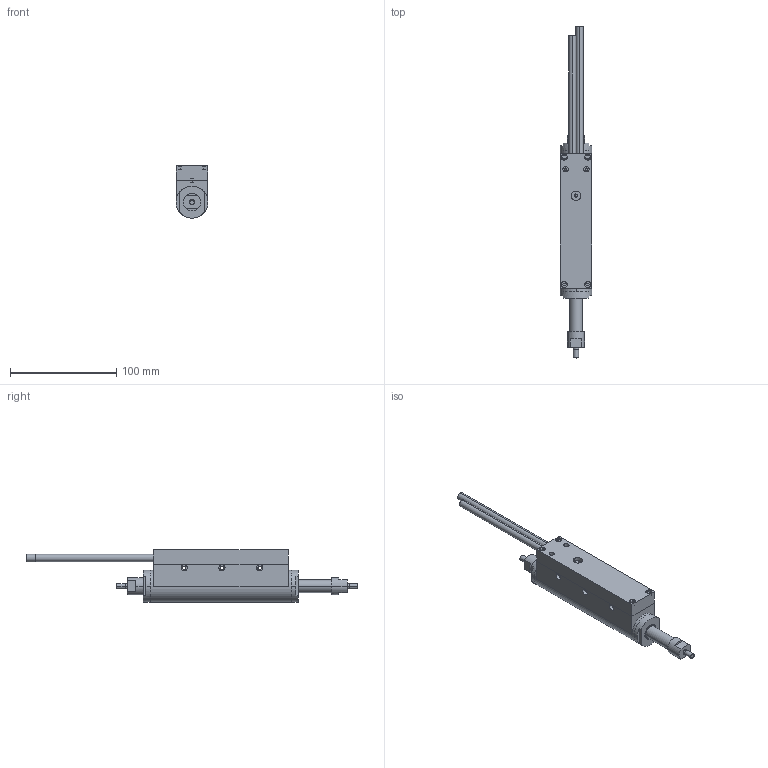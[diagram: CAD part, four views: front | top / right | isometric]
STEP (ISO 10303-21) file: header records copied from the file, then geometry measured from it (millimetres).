
FILE_DESCRIPTION(('STEP AP214'),'1');
FILE_NAME('C:/Users/Autocad/Dropbox/ETT/Drawing/Size 25/ETT025S35SNN0030C.stp','2014-01-24T16:07:10',(' '),(' '),'Spatial InterOp 3D',' ',' ');
FILE_SCHEMA(('automotive_design'));
Length unit declared in the file: millimetre
Products named in the file (12): ETT025S35SNN0030C; tUBO PARKER; tappo 1; xsm-1214-06; Ass scatola 4-2 pressacavonuovo; Ass scatola 4-2 pressacavonuovo Geometry; Scatola 3 sotto 2; Scatola 3 pressacavo nuovo; Vite M3scheda -tappo; Vite M3 scatola; Tubo 12 3
Assembly tree (15 placements, depth 3):
  ETT025S35SNN0030C
    tUBO PARKER
    tappo 1
    tappo 1
    xsm-1214-06  x2
    Ass scatola 4-2 pressacavonuovo
      Ass scatola 4-2 pressacavonuovo Geometry
      Scatola 3 sotto 2
      Scatola 3 pressacavo nuovo
      Vite M3scheda -tappo
      Vite M3 scatola  x4
    Tubo 12 3
Bounding box: 30 x 312.32 x 49.2 mm (x, y, z)
Volume: 129134 mm3; surface area: 81415.4 mm2
Topology: 15 solids, 169 shells, 443 faces, 1328 edges, 1104 vertices
Faces by surface type: cylinder 271, plane 168, cone 4
Entity records: 18185 total; most frequent: CARTESIAN_POINT 3659, DIRECTION 2447, ORIENTED_EDGE 1702, EDGE_CURVE 1163, AXIS2_PLACEMENT_3D 989, VERTEX_POINT 989, CIRCLE 600, EDGE_LOOP 482
